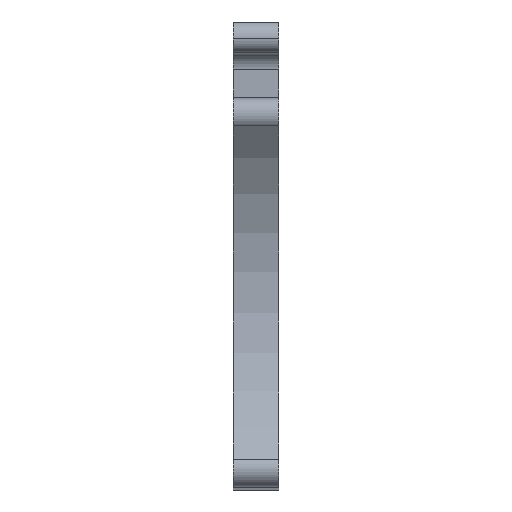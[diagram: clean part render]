
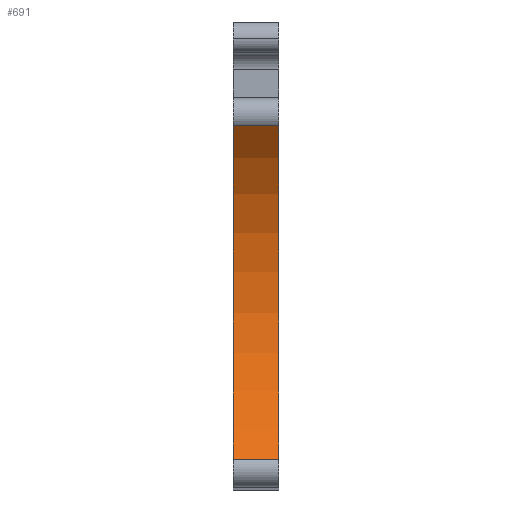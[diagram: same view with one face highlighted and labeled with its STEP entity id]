
A CAD part, top view. The second image highlights one B-rep face of the part: STEP entity #691.
In plain terms, the highlighted cylindrical face has radius 15 mm (diameter 30 mm), a partial arc.
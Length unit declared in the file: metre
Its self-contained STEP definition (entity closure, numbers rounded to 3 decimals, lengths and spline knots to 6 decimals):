
#20=CIRCLE('',#749,0.015);
#21=CIRCLE('',#750,0.015);
#44=CYLINDRICAL_SURFACE('',#748,0.015);
#106=ORIENTED_EDGE('',*,*,#300,.F.);
#107=ORIENTED_EDGE('',*,*,#301,.F.);
#108=ORIENTED_EDGE('',*,*,#302,.T.);
#109=ORIENTED_EDGE('',*,*,#298,.T.);
#298=EDGE_CURVE('',#391,#390,#461,.T.);
#300=EDGE_CURVE('',#392,#390,#20,.T.);
#301=EDGE_CURVE('',#393,#392,#462,.T.);
#302=EDGE_CURVE('',#393,#391,#21,.T.);
#390=VERTEX_POINT('',#1079);
#391=VERTEX_POINT('',#1081);
#392=VERTEX_POINT('',#1085);
#393=VERTEX_POINT('',#1087);
#461=LINE('',#1080,#535);
#462=LINE('',#1086,#536);
#535=VECTOR('',#866,1.);
#536=VECTOR('',#873,1.);
#589=EDGE_LOOP('',(#106,#107,#108,#109));
#629=FACE_BOUND('',#589,.T.);
#691=ADVANCED_FACE('',(#629),#44,.F.);
#748=AXIS2_PLACEMENT_3D('',#1083,#869,#870);
#749=AXIS2_PLACEMENT_3D('',#1084,#871,#872);
#750=AXIS2_PLACEMENT_3D('',#1088,#874,#875);
#866=DIRECTION('',(1.,0.,0.));
#869=DIRECTION('',(1.,0.,0.));
#870=DIRECTION('',(0.,-1.,0.));
#871=DIRECTION('',(-1.,0.,0.));
#872=DIRECTION('',(0.,1.,0.));
#873=DIRECTION('',(1.,0.,0.));
#874=DIRECTION('',(-1.,0.,0.));
#875=DIRECTION('',(0.,1.,0.));
#1079=CARTESIAN_POINT('',(0.0037,0.004356,-0.007987));
#1080=CARTESIAN_POINT('',(0.001,0.004356,-0.007987));
#1081=CARTESIAN_POINT('',(0.001,0.004356,-0.007987));
#1083=CARTESIAN_POINT('',(0.001,0.0142,0.003331));
#1084=CARTESIAN_POINT('',(0.0037,0.0142,0.003331));
#1085=CARTESIAN_POINT('',(0.0037,0.024044,-0.007987));
#1086=CARTESIAN_POINT('',(0.001,0.024044,-0.007987));
#1087=CARTESIAN_POINT('',(0.001,0.024044,-0.007987));
#1088=CARTESIAN_POINT('',(0.001,0.0142,0.003331));
